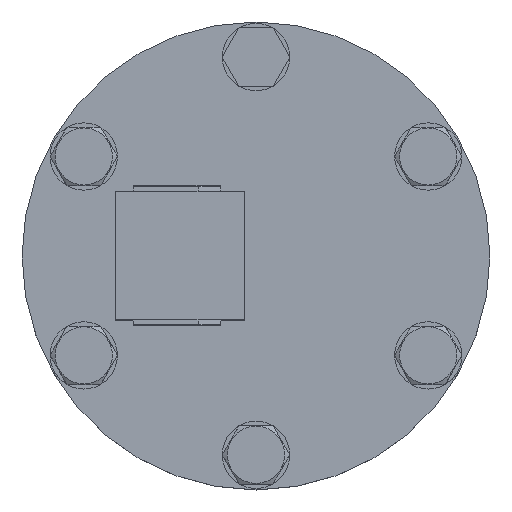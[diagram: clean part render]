
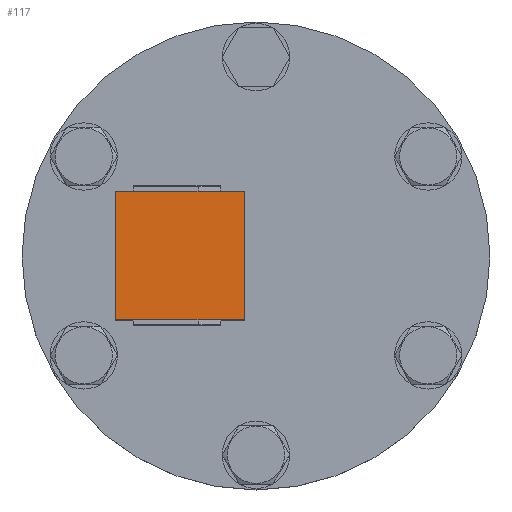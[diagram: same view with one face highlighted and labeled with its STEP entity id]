
A CAD part, top view. The second image highlights one B-rep face of the part: STEP entity #117.
In plain terms, the highlighted planar face has unit normal (0, 0, 1).
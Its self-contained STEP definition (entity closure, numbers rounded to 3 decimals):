
#117=ADVANCED_FACE('',(#1132),#1131,.T.);
#1131=PLANE('',#4385);
#1132=FACE_OUTER_BOUND('',#4386,.T.);
#4382=CARTESIAN_POINT('',(-26.209,-13.2,152.5));
#4383=DIRECTION('',(0.,0.,1.));
#4384=DIRECTION('',(1.,0.,0.));
#4385=AXIS2_PLACEMENT_3D('',#4382,#4383,#4384);
#4386=EDGE_LOOP('',(#6605,#6606,#6607,#6608));
#6605=ORIENTED_EDGE('',*,*,#8105,.T.);
#6606=ORIENTED_EDGE('',*,*,#8094,.T.);
#6607=ORIENTED_EDGE('',*,*,#8110,.T.);
#6608=ORIENTED_EDGE('',*,*,#8111,.T.);
#8094=EDGE_CURVE('',#10596,#10597,#10598,.T.);
#8105=EDGE_CURVE('',#10673,#10596,#10674,.T.);
#8110=EDGE_CURVE('',#10597,#10707,#10708,.T.);
#8111=EDGE_CURVE('',#10707,#10673,#10714,.T.);
#10596=VERTEX_POINT('',#15485);
#10597=VERTEX_POINT('',#15486);
#10598=LINE('',#15487,#15488);
#10673=VERTEX_POINT('',#15529);
#10674=LINE('',#15530,#15531);
#10707=VERTEX_POINT('',#15550);
#10708=LINE('',#15551,#15552);
#10714=LINE('',#15554,#15555);
#15485=CARTESIAN_POINT('',(-2.009,11.,152.5));
#15486=CARTESIAN_POINT('',(-24.009,11.,152.5));
#15487=CARTESIAN_POINT('',(-2.009,11.,152.5));
#15488=VECTOR('',#15489,22.);
#15489=DIRECTION('',(-1.,0.,0.));
#15529=CARTESIAN_POINT('',(-2.009,-11.,152.5));
#15530=CARTESIAN_POINT('',(-2.009,-11.,152.5));
#15531=VECTOR('',#15532,22.);
#15532=DIRECTION('',(0.,1.,0.));
#15550=CARTESIAN_POINT('',(-24.009,-11.,152.5));
#15551=CARTESIAN_POINT('',(-24.009,11.,152.5));
#15552=VECTOR('',#15553,22.);
#15553=DIRECTION('',(0.,-1.,0.));
#15554=CARTESIAN_POINT('',(-24.009,-11.,152.5));
#15555=VECTOR('',#15556,22.);
#15556=DIRECTION('',(1.,0.,0.));
